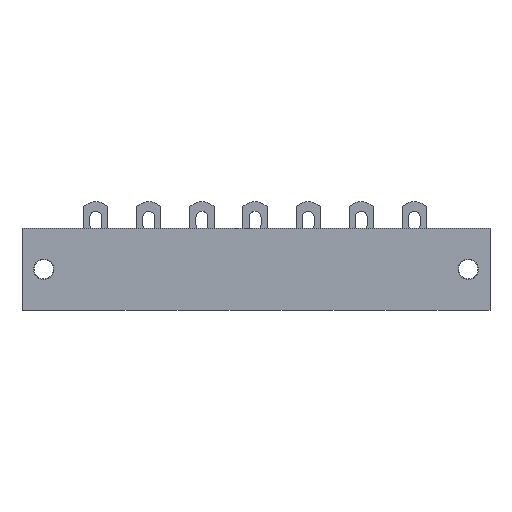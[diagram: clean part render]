
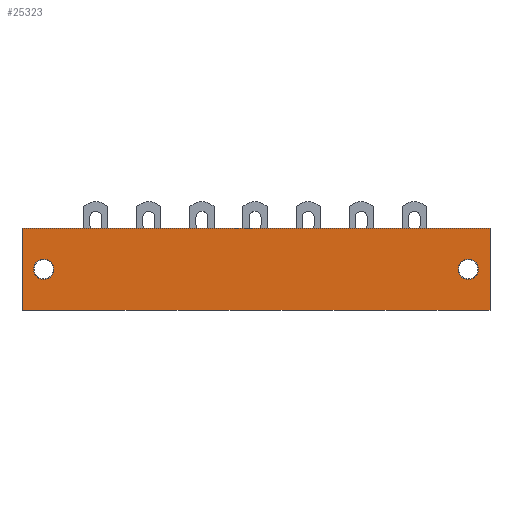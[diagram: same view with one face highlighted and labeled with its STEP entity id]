
A CAD part, front view. The second image highlights one B-rep face of the part: STEP entity #25323.
In plain terms, the highlighted planar face has unit normal (0, -1, 0).
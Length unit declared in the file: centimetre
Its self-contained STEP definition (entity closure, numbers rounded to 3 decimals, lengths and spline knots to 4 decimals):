
#1000=VECTOR('',#26831,1.);
#1518=VECTOR('',#27667,1.);
#3383=VECTOR('',#31452,1.);
#3384=VECTOR('',#31453,1.);
#3822=LINE('',#33044,#1000);
#4340=LINE('',#34947,#1518);
#6205=LINE('',#39979,#3383);
#6206=LINE('',#39980,#3384);
#6733=VERTEX_POINT('',#33045);
#6734=VERTEX_POINT('',#33046);
#6745=VERTEX_POINT('',#33070);
#7212=VERTEX_POINT('',#34948);
#7213=VERTEX_POINT('',#34949);
#7224=VERTEX_POINT('',#34973);
#8891=CIRCLE('',#40168,0.21);
#8939=CIRCLE('',#40410,0.21);
#9891=EDGE_CURVE('',#6733,#6734,#3822,.T.);
#9903=EDGE_CURVE('',#6745,#6745,#8891,.T.);
#10578=EDGE_CURVE('',#7212,#7213,#4340,.T.);
#10590=EDGE_CURVE('',#7224,#7224,#8939,.T.);
#13163=EDGE_CURVE('',#7213,#6733,#6205,.T.);
#13164=EDGE_CURVE('',#6734,#7212,#6206,.T.);
#20689=ORIENTED_EDGE('',*,*,#9903,.T.);
#20690=ORIENTED_EDGE('',*,*,#10590,.T.);
#20691=ORIENTED_EDGE('',*,*,#13163,.T.);
#20692=ORIENTED_EDGE('',*,*,#9891,.T.);
#20693=ORIENTED_EDGE('',*,*,#13164,.T.);
#20694=ORIENTED_EDGE('',*,*,#10578,.T.);
#22365=EDGE_LOOP('',(#20689));
#22366=EDGE_LOOP('',(#20690));
#22367=EDGE_LOOP('',(#20691,#20692,#20693,#20694));
#23925=FACE_BOUND('',#22365,.T.);
#23926=FACE_BOUND('',#22366,.T.);
#23927=FACE_BOUND('',#22367,.T.);
#25323=ADVANCED_FACE('',(#23925,#23926,#23927),#26230,.T.);
#26230=PLANE('',#41663);
#26831=DIRECTION('',(0.,0.,1.));
#26849=DIRECTION('',(0.,1.,0.));
#26850=DIRECTION('',(0.21,0.,0.));
#27667=DIRECTION('',(0.,0.,-1.));
#27685=DIRECTION('',(0.,1.,0.));
#27686=DIRECTION('',(-0.21,0.,0.));
#31451=DIRECTION('',(0.,-1.,0.));
#31452=DIRECTION('',(1.,0.,0.));
#31453=DIRECTION('',(-1.,0.,0.));
#33044=CARTESIAN_POINT('',(7.7,0.,0.85));
#33045=CARTESIAN_POINT('',(7.7,0.,-0.85));
#33046=CARTESIAN_POINT('',(7.7,0.,0.85));
#33069=CARTESIAN_POINT('',(7.25,0.,0.));
#33070=CARTESIAN_POINT('',(7.04,0.,0.));
#34947=CARTESIAN_POINT('',(-2.,0.,-0.85));
#34948=CARTESIAN_POINT('',(-2.,0.,0.85));
#34949=CARTESIAN_POINT('',(-2.,0.,-0.85));
#34972=CARTESIAN_POINT('',(-1.55,0.,0.));
#34973=CARTESIAN_POINT('',(-1.34,0.,0.));
#39978=CARTESIAN_POINT('',(0.,0.,0.));
#39979=CARTESIAN_POINT('',(0.,0.,-0.85));
#39980=CARTESIAN_POINT('',(-1.1,0.,0.85));
#40168=AXIS2_PLACEMENT_3D('',#33069,#26849,#26850);
#40410=AXIS2_PLACEMENT_3D('',#34972,#27685,#27686);
#41663=AXIS2_PLACEMENT_3D('',#39978,#31451,$);
